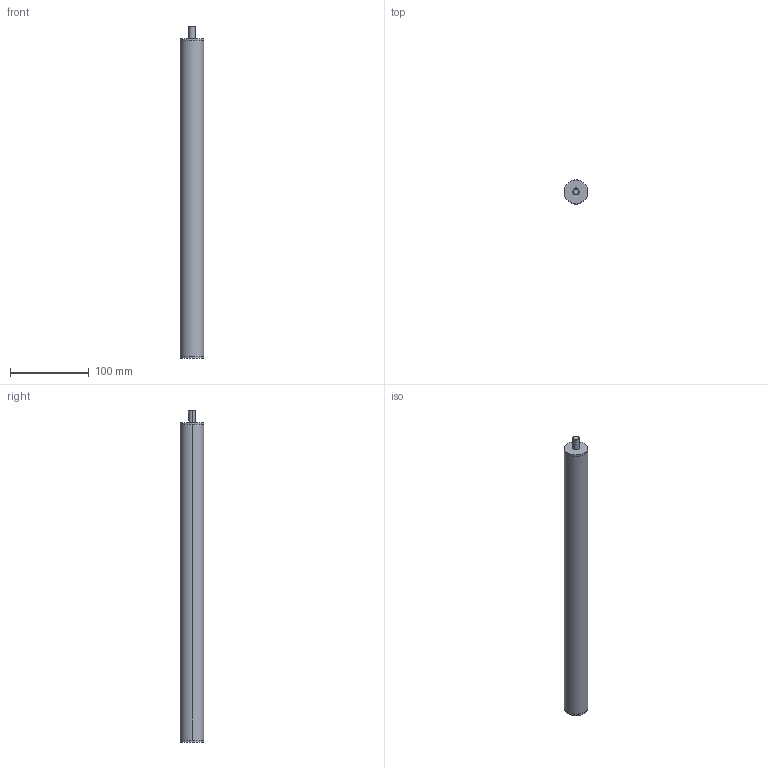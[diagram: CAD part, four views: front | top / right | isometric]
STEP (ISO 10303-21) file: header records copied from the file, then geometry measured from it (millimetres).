
FILE_DESCRIPTION (( 'STEP AP214' ), '1' );
FILE_NAME ('291-30-200-L1-SCR.step', '2023-08-30T05:20:03', ( '' ), ( '' ), 'SwSTEP 2.0', 'SolidWorks 2022', '' );
FILE_SCHEMA (( 'AUTOMOTIVE_DESIGN' ));
Length unit declared in the file: millimetre
Products named in the file (3): 291-30-200-L1-SCR; WB2910 Rund^WBVES_30-200-1; WB2910 mutter^WBVES_Tr14-M4
Assembly tree (2 placements, depth 2):
  291-30-200-L1-SCR
    WB2910 mutter^WBVES_Tr14-M4
    WB2910 Rund^WBVES_30-200-1
Bounding box: 30 x 30 x 421 mm (x, y, z)
Volume: 129314.4 mm3; surface area: 95705.8 mm2
Topology: 2 solids, 2 shells, 48 faces, 112 edges, 70 vertices
Faces by surface type: cylinder 25, plane 17, cone 6
Entity records: 1823 total; most frequent: CARTESIAN_POINT 402, DIRECTION 246, ORIENTED_EDGE 216, EDGE_CURVE 108, AXIS2_PLACEMENT_3D 96, VERTEX_POINT 70, EDGE_LOOP 58, LINE 54
